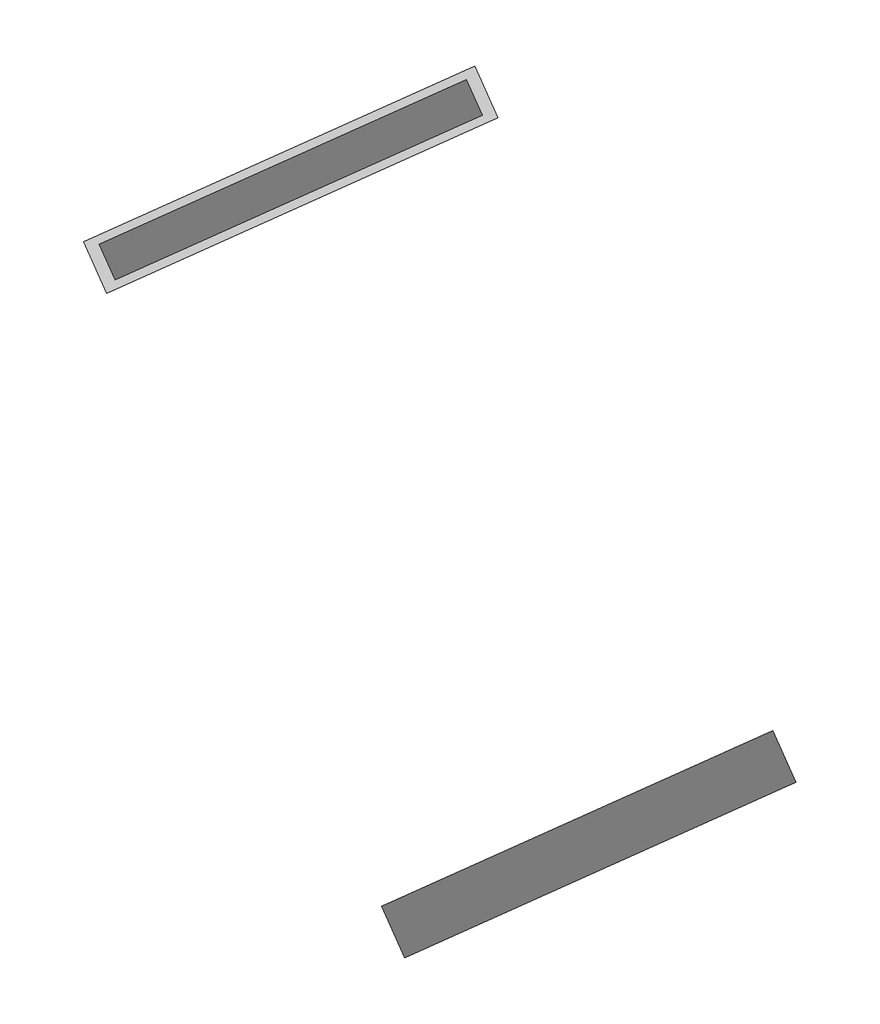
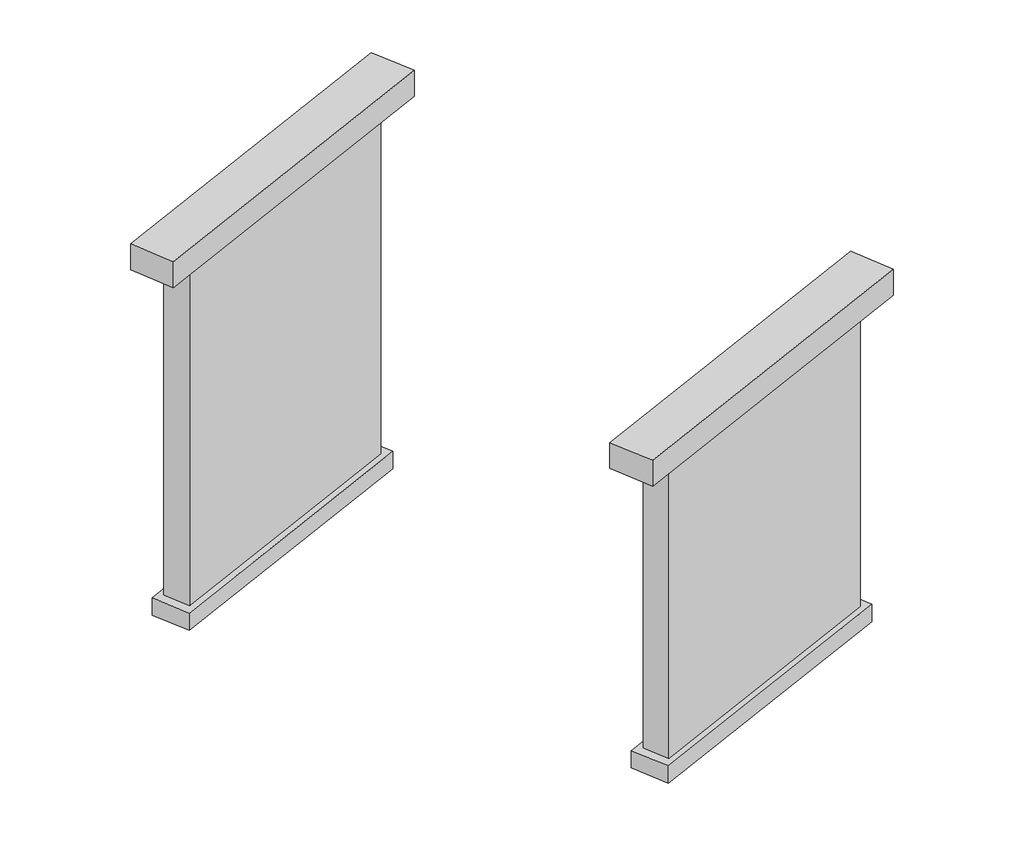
# One storey: 2 proxies.
"""IFC4 building model written with IfcOpenShell, lengths in millimetres."""

from ifc_helpers import new_model, si_unit, origin, place, context, project, spatial, transform, mapped, element, save
from components import m_pier_rectangular_cap_m_pier_rectangular_cap_6be5956a, m_pier_rectangular_cap_m_pier_rectangular_cap_ed16dbf9

model = new_model("IFC4")

# Units and contexts
model_context = context("Model", 3, world=origin())
ifc_project = project(units=[si_unit("LENGTHUNIT", "METRE", prefix="MILLI")], contexts=[model_context])

# Site, building, storey
site = spatial("IfcSite", under=ifc_project)
building = spatial("IfcBuilding", under=site)
storey = spatial("IfcBuildingStorey", under=building, Name="レベル 23", Elevation=-14406.5555713)

# Proxies
placement = place(None, origin())
m_pier_rectangular_cap_m_pier_rectangular_cap_shape = m_pier_rectangular_cap_m_pier_rectangular_cap_6be5956a(model_context)
element("IfcBuildingElementProxy", 1, Name="M_Pier_rectangular_cap : M_Pier_rectangular_cap", ObjectType="M_Pier_rectangular_cap : M_Pier_rectangular_cap", at=placement, inside=storey, context=model_context, shape_type="MappedRepresentation", body=[
    mapped(m_pier_rectangular_cap_m_pier_rectangular_cap_shape, transform((-3437.669, 7664.3612, -1660.680896), x_axis=(0.9124239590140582, 0.4092462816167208, 0.0), y_axis=(-0.4092462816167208, 0.9124239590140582, 0.0), z_axis=(0.0, 0.0, 1.0))),
])
m_pier_rectangular_cap_m_pier_rectangular_cap_2_shape = m_pier_rectangular_cap_m_pier_rectangular_cap_ed16dbf9(model_context)
element("IfcBuildingElementProxy", 2, Name="M_Pier_rectangular_cap : M_Pier_rectangular_cap", ObjectType="M_Pier_rectangular_cap : M_Pier_rectangular_cap", at=placement, inside=storey, context=model_context, shape_type="MappedRepresentation", body=[
    mapped(m_pier_rectangular_cap_m_pier_rectangular_cap_2_shape, transform((3437.669, -7664.3612, -1664.622796), x_axis=(0.9124239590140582, 0.4092462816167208, 0.0), y_axis=(-0.4092462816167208, 0.9124239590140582, 0.0), z_axis=(0.0, 0.0, 1.0))),
])

save(model, "model.ifc")
